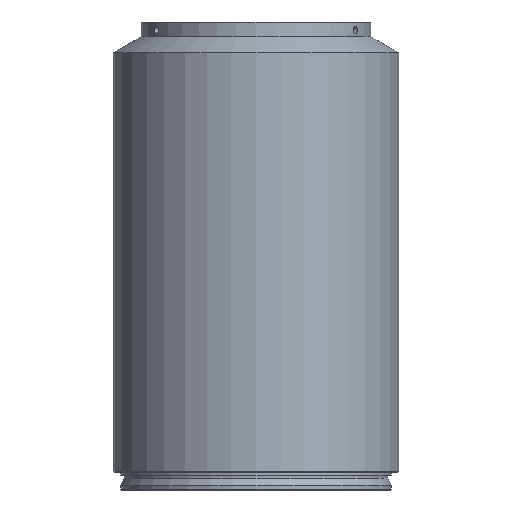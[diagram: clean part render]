
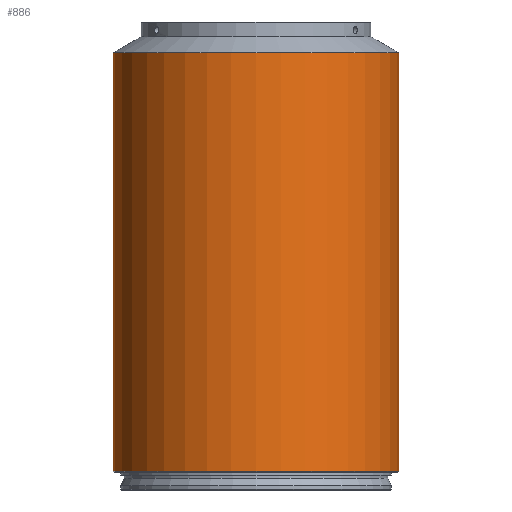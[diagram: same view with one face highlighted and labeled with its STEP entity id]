
A CAD part, front view. The second image highlights one B-rep face of the part: STEP entity #886.
In plain terms, the highlighted cylindrical face has radius 48.5 mm (diameter 97 mm), a partial arc.
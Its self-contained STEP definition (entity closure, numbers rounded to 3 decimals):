
#165 = VERTEX_POINT ( 'NONE', #1031 ) ;
#185 = EDGE_CURVE ( 'NONE', #458, #580, #1117, .T. ) ;
#253 = CARTESIAN_POINT ( 'NONE',  ( 48.5, 0., 199.016 ) ) ;
#256 = DIRECTION ( 'NONE',  ( 0., 0., 1. ) ) ;
#311 = CARTESIAN_POINT ( 'NONE',  ( -48.5, 0., 56.8 ) ) ;
#331 = FACE_OUTER_BOUND ( 'NONE', #818, .T. ) ;
#376 = CIRCLE ( 'NONE', #1232, 48.5 ) ;
#451 = VECTOR ( 'NONE', #1330, 1000. ) ;
#454 = AXIS2_PLACEMENT_3D ( 'NONE', #960, #1283, #848 ) ;
#458 = VERTEX_POINT ( 'NONE', #311 ) ;
#459 = CARTESIAN_POINT ( 'NONE',  ( 0., 0., 56.8 ) ) ;
#520 = DIRECTION ( 'NONE',  ( 1., 0., 0. ) ) ;
#580 = VERTEX_POINT ( 'NONE', #892 ) ;
#615 = LINE ( 'NONE', #1047, #451 ) ;
#635 = VECTOR ( 'NONE', #1127, 1000. ) ;
#638 = CYLINDRICAL_SURFACE ( 'NONE', #970, 48.5 ) ;
#645 = EDGE_CURVE ( 'NONE', #580, #792, #880, .T. ) ;
#792 = VERTEX_POINT ( 'NONE', #253 ) ;
#805 = ORIENTED_EDGE ( 'NONE', *, *, #1388, .T. ) ;
#818 = EDGE_LOOP ( 'NONE', ( #1312, #873, #805, #1226 ) ) ;
#848 = DIRECTION ( 'NONE',  ( 1., 0., 0. ) ) ;
#864 = CARTESIAN_POINT ( 'NONE',  ( 0., 0., 179.046 ) ) ;
#873 = ORIENTED_EDGE ( 'NONE', *, *, #992, .T. ) ;
#880 = CIRCLE ( 'NONE', #454, 48.5 ) ;
#886 = ADVANCED_FACE ( 'NONE', ( #331 ), #638, .T. ) ;
#892 = CARTESIAN_POINT ( 'NONE',  ( -48.5, 0., 199.016 ) ) ;
#960 = CARTESIAN_POINT ( 'NONE',  ( 0., 0., 199.016 ) ) ;
#970 = AXIS2_PLACEMENT_3D ( 'NONE', #864, #1285, #520 ) ;
#992 = EDGE_CURVE ( 'NONE', #458, #165, #376, .T. ) ;
#1002 = DIRECTION ( 'NONE',  ( 1., 0., 0. ) ) ;
#1018 = CARTESIAN_POINT ( 'NONE',  ( -48.5, 0., 179.046 ) ) ;
#1031 = CARTESIAN_POINT ( 'NONE',  ( 48.5, 0., 56.8 ) ) ;
#1047 = CARTESIAN_POINT ( 'NONE',  ( 48.5, 0., 179.046 ) ) ;
#1117 = LINE ( 'NONE', #1018, #635 ) ;
#1127 = DIRECTION ( 'NONE',  ( 0., 0., 1. ) ) ;
#1226 = ORIENTED_EDGE ( 'NONE', *, *, #645, .F. ) ;
#1232 = AXIS2_PLACEMENT_3D ( 'NONE', #459, #256, #1002 ) ;
#1283 = DIRECTION ( 'NONE',  ( 0., 0., 1. ) ) ;
#1285 = DIRECTION ( 'NONE',  ( 0., 0., 1. ) ) ;
#1312 = ORIENTED_EDGE ( 'NONE', *, *, #185, .F. ) ;
#1330 = DIRECTION ( 'NONE',  ( 0., 0., 1. ) ) ;
#1388 = EDGE_CURVE ( 'NONE', #165, #792, #615, .T. ) ;
